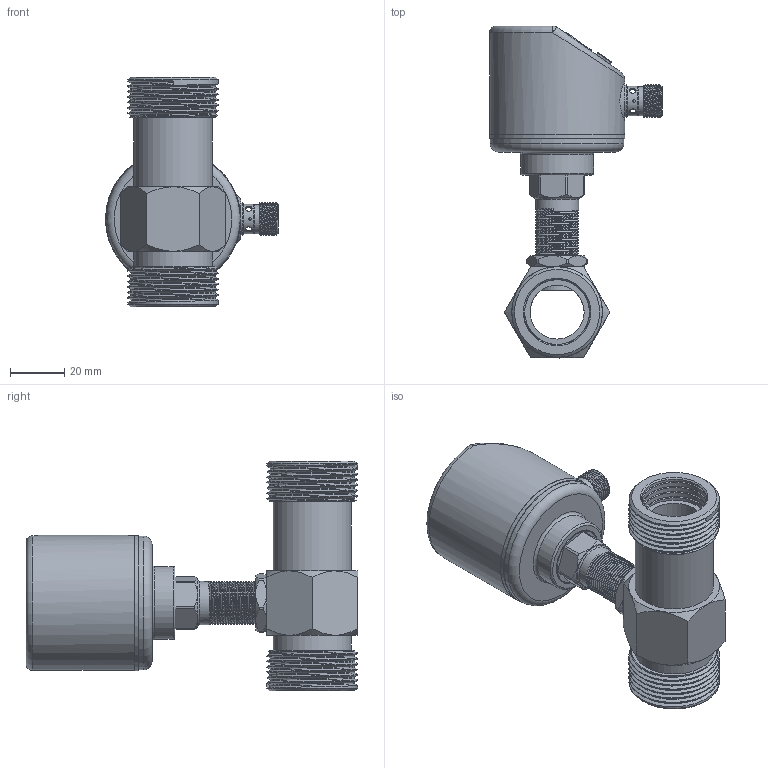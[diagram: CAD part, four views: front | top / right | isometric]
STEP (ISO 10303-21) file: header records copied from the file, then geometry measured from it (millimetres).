
FILE_DESCRIPTION (( 'STEP AP214' ), '1' );
FILE_NAME ('DN20俋杅珆.STEP', '2025-03-05T01:26:30', ( '' ), ( '' ), 'SwSTEP 2.0', 'SolidWorks 2020', '' );
FILE_SCHEMA (( 'AUTOMOTIVE_DESIGN' ));
Length unit declared in the file: millimetre
Products named in the file (10): 偌瑩簽; PVC躇猾菜; 滅阨諉芛褲极1; DN20俋; DN20俋杅珆; 揤薯奻裔; 抻芛俋蹟恇G1-4; 揤薯珆尨欶; 恦謫抻芛5; 蹟譫1
Assembly tree (11 placements, depth 2):
  DN20俋杅珆
    揤薯奻裔
    揤薯珆尨欶
    滅阨諉芛褲极1
    偌瑩簽  x3
    PVC躇猾菜
    抻芛俋蹟恇G1-4
    恦謫抻芛5
    蹟譫1
    DN20俋
Bounding box: 64 x 122.8 x 85 mm (x, y, z)
Volume: 65749.9 mm3; surface area: 51834.7 mm2
Topology: 11 solids, 11 shells, 454 faces, 1086 edges, 714 vertices
Faces by surface type: plane 173, cylinder 168, cone 69, bspline 28, torus 12, sphere 4
Full cylindrical faces by diameter (mm): 1 x4, 1.2 x3, 1.8 x1, 2 x5, 2.5 x7, 2.8 x1, 4.3 x3, 4.5 x6, 7 x15, 7.2 x1, 8.5 x1, 9.75 x1, 10.5 x1, 10.7 x1, 10.8 x1, 10.9 x1, 11 x2, 12 x1, 14 x1, 14.3 x1, 14.4 x1, 14.8 x1, 16 x29, 17.34 x2, 17.4 x1, 20 x1, 21.24 x1, 21.3 x1, 24 x1, 27 x1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
Entity records: 26687 total; most frequent: CARTESIAN_POINT 18059, DIRECTION 1661, ORIENTED_EDGE 1484, EDGE_CURVE 742, AXIS2_PLACEMENT_3D 682, EDGE_LOOP 591, VERTEX_POINT 541, FACE_OUTER_BOUND 456
